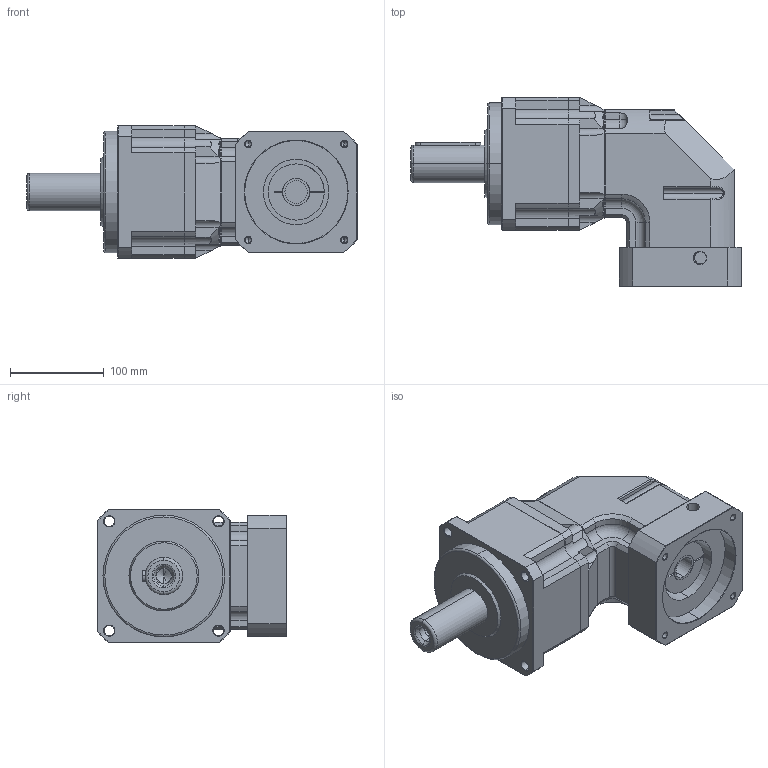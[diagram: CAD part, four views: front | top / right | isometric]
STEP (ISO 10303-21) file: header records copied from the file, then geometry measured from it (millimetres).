
FILE_DESCRIPTION (( 'STEP AP203' ), '1' );
FILE_NAME ('×°ÅäÌå3.STEP', '2020-11-26T03:13:45', ( '' ), ( '' ), 'SwSTEP 2.0', 'SolidWorks 2017', '' );
FILE_SCHEMA (( 'CONFIG_CONTROL_DESIGN' ));
Length unit declared in the file: millimetre
Products named in the file (1): 蚾饜极3
Bounding box: 352.5 x 202.1 x 142 mm (x, y, z)
Volume: 4381194.9 mm3; surface area: 290070.5 mm2
Topology: 5 solids, 5 shells, 503 faces, 1234 edges, 759 vertices
Faces by surface type: plane 200, cylinder 179, cone 96, torus 24, bspline 4
Entity records: 15931 total; most frequent: CARTESIAN_POINT 4080, DIRECTION 2494, ORIENTED_EDGE 2448, EDGE_CURVE 1224, AXIS2_PLACEMENT_3D 949, VERTEX_POINT 759, LINE 596, VECTOR 596
